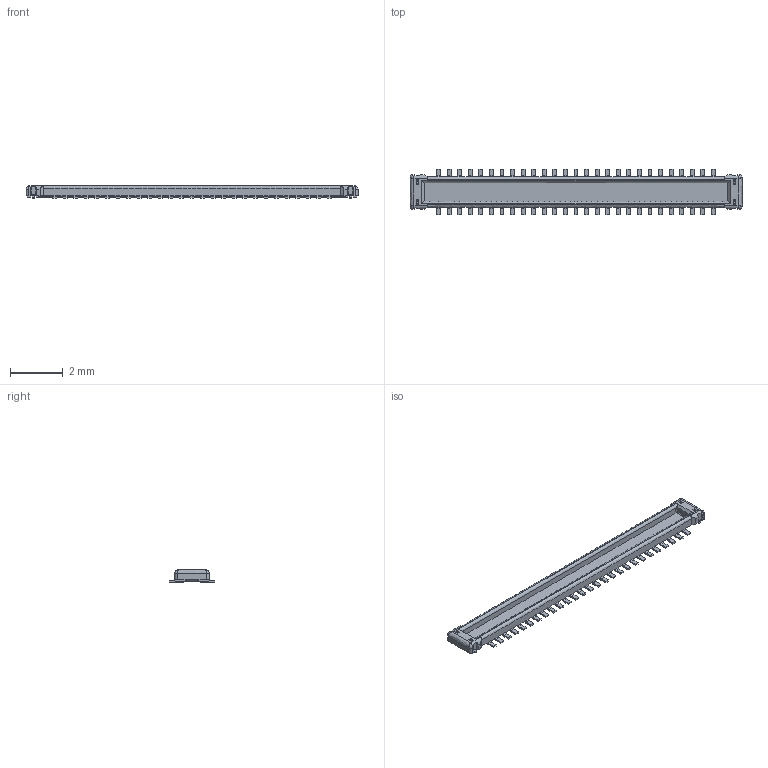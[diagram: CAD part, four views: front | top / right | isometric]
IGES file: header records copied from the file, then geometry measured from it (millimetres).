
Start section: START RECORD GO HERE.
Global section: file name: 10_5806_054_002_829_+.igs; native system: DASSAULT SYSTEMES CATIA V5 R19 - www.3ds.com; preprocessor: CATIA Version 5 Release 19 SP 8 ; author: User; organization: CATIA11; date: 20130820.102028; units: millimetre
Bounding box: 12.56 x 1.72 x 0.48 mm (x, y, z)
Volume: 3.7 mm3; surface area: 57.7 mm2
Topology: 1 solids, 1 shells, 677 faces, 2127 edges, 1449 vertices
Faces by surface type: plane 523, revolution 150, bspline 4
